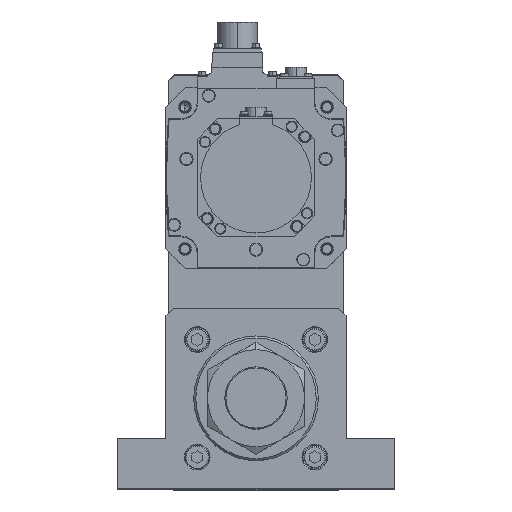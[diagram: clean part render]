
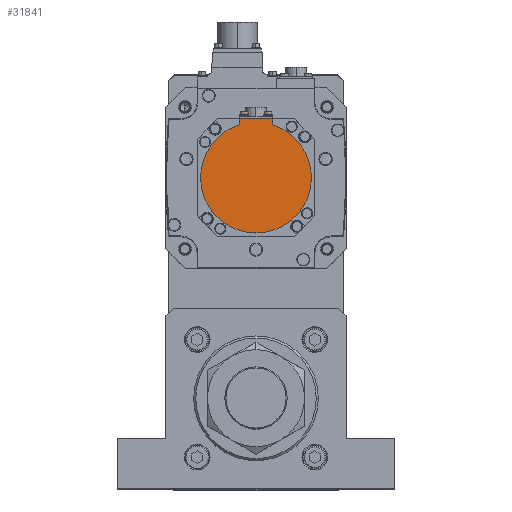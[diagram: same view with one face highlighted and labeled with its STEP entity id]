
A CAD part, top view. The second image highlights one B-rep face of the part: STEP entity #31841.
In plain terms, the highlighted planar face has unit normal (0, 0, 1) as drawn and (0, 0, -1) by its records, which use the part's own axes.
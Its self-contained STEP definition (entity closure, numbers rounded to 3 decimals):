
#144 = VERTEX_POINT ( 'NONE', #21929 ) ;
#338 = VERTEX_POINT ( 'NONE', #14642 ) ;
#461 = CARTESIAN_POINT ( 'NONE',  ( -12., -40.329, -181. ) ) ;
#497 = LINE ( 'NONE', #461, #15329 ) ;
#746 = ORIENTED_EDGE ( 'NONE', *, *, #15324, .F. ) ;
#2095 = VECTOR ( 'NONE', #13309, 1000. ) ;
#2777 = ORIENTED_EDGE ( 'NONE', *, *, #7766, .F. ) ;
#3372 = CIRCLE ( 'NONE', #3912, 40. ) ;
#3912 = AXIS2_PLACEMENT_3D ( 'NONE', #4554, #10504, #16570 ) ;
#3929 = CIRCLE ( 'NONE', #15475, 40. ) ;
#4554 = CARTESIAN_POINT ( 'NONE',  ( 0., 0., -181. ) ) ;
#6796 = CARTESIAN_POINT ( 'NONE',  ( -12., -42.5, -181. ) ) ;
#7440 = ORIENTED_EDGE ( 'NONE', *, *, #36580, .T. ) ;
#7766 = EDGE_CURVE ( 'NONE', #13194, #10296, #3372, .T. ) ;
#7948 = DIRECTION ( 'NONE',  ( 1., 0., 0. ) ) ;
#8016 = CARTESIAN_POINT ( 'NONE',  ( -40., 0., -181. ) ) ;
#9010 = EDGE_CURVE ( 'NONE', #10353, #37854, #11845, .T. ) ;
#9529 = DIRECTION ( 'NONE',  ( 0., 1., 0. ) ) ;
#10211 = CARTESIAN_POINT ( 'NONE',  ( 0., -42.5, -181. ) ) ;
#10296 = VERTEX_POINT ( 'NONE', #8016 ) ;
#10353 = VERTEX_POINT ( 'NONE', #35044 ) ;
#10504 = DIRECTION ( 'NONE',  ( 0., 0., 1. ) ) ;
#11845 = LINE ( 'NONE', #10211, #2095 ) ;
#12743 = CARTESIAN_POINT ( 'NONE',  ( 0., 0., -181. ) ) ;
#12748 = EDGE_LOOP ( 'NONE', ( #7440, #19279, #2777, #33339, #746, #32688 ) ) ;
#13194 = VERTEX_POINT ( 'NONE', #25533 ) ;
#13309 = DIRECTION ( 'NONE',  ( -1., 0., 0. ) ) ;
#14311 = DIRECTION ( 'NONE',  ( 0., 0., 1. ) ) ;
#14642 = CARTESIAN_POINT ( 'NONE',  ( 12., -38.158, -181. ) ) ;
#15324 = EDGE_CURVE ( 'NONE', #10353, #338, #34429, .T. ) ;
#15329 = VECTOR ( 'NONE', #9529, 1000. ) ;
#15475 = AXIS2_PLACEMENT_3D ( 'NONE', #34735, #20129, #34484 ) ;
#15567 = DIRECTION ( 'NONE',  ( 1., 0., 0. ) ) ;
#16570 = DIRECTION ( 'NONE',  ( 1., 0., 0. ) ) ;
#18801 = FACE_OUTER_BOUND ( 'NONE', #12748, .T. ) ;
#19279 = ORIENTED_EDGE ( 'NONE', *, *, #22355, .F. ) ;
#19753 = CARTESIAN_POINT ( 'NONE',  ( 12., -1.25, -181. ) ) ;
#20129 = DIRECTION ( 'NONE',  ( 0., 0., 1. ) ) ;
#20765 = AXIS2_PLACEMENT_3D ( 'NONE', #12743, #30036, #15567 ) ;
#21929 = CARTESIAN_POINT ( 'NONE',  ( -12., -38.158, -181. ) ) ;
#21939 = VECTOR ( 'NONE', #34112, 1000. ) ;
#22355 = EDGE_CURVE ( 'NONE', #10296, #144, #25613, .T. ) ;
#23069 = CARTESIAN_POINT ( 'NONE',  ( 0., -1.25, -181. ) ) ;
#23234 = AXIS2_PLACEMENT_3D ( 'NONE', #23069, #14311, #7948 ) ;
#25533 = CARTESIAN_POINT ( 'NONE',  ( 40., 0., -181. ) ) ;
#25613 = CIRCLE ( 'NONE', #20765, 40. ) ;
#25819 = PLANE ( 'NONE',  #23234 ) ;
#27431 = EDGE_CURVE ( 'NONE', #338, #13194, #3929, .T. ) ;
#30036 = DIRECTION ( 'NONE',  ( 0., 0., 1. ) ) ;
#31841 = ADVANCED_FACE ( 'NONE', ( #18801 ), #25819, .F. ) ;
#32688 = ORIENTED_EDGE ( 'NONE', *, *, #9010, .T. ) ;
#33339 = ORIENTED_EDGE ( 'NONE', *, *, #27431, .F. ) ;
#34112 = DIRECTION ( 'NONE',  ( 0., 1., 0. ) ) ;
#34429 = LINE ( 'NONE', #19753, #21939 ) ;
#34484 = DIRECTION ( 'NONE',  ( 1., 0., 0. ) ) ;
#34735 = CARTESIAN_POINT ( 'NONE',  ( 0., 0., -181. ) ) ;
#35044 = CARTESIAN_POINT ( 'NONE',  ( 12., -42.5, -181. ) ) ;
#36580 = EDGE_CURVE ( 'NONE', #37854, #144, #497, .T. ) ;
#37854 = VERTEX_POINT ( 'NONE', #6796 ) ;
